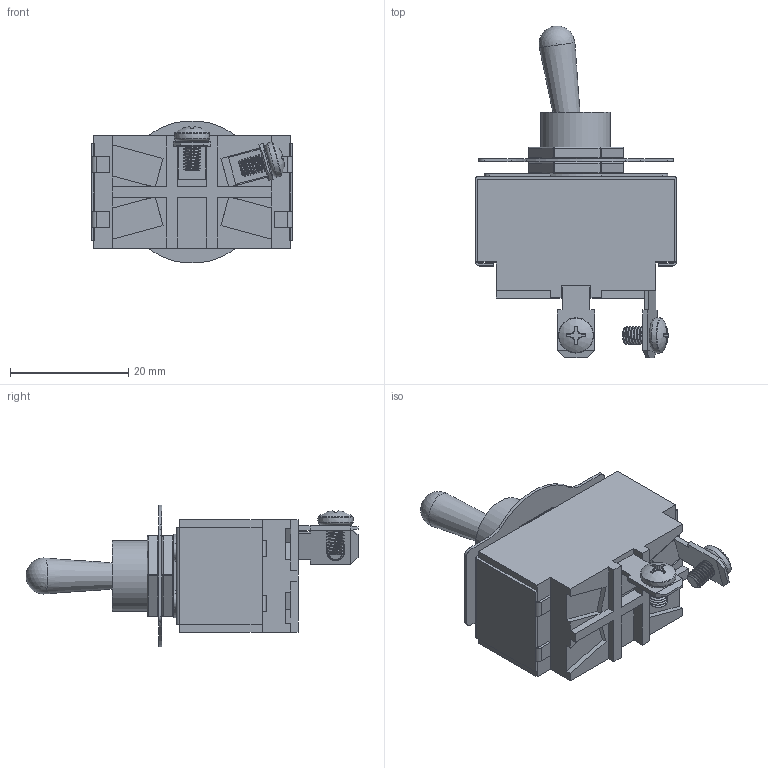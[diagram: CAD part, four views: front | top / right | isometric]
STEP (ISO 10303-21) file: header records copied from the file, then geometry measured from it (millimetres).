
FILE_DESCRIPTION(/* description */ (''),/* implementation_level */ '2;1');
FILE_NAME(/* name */ 'TB2-1A-DC-4.stp',/* time_stamp */ '2024-01-05T13:11:22-08:00',/* author */ ('RaniahC'),/* organization */ (''),/* preprocessor_version */ 'ST-DEVELOPER v19.2',/* originating_system */ 'Autodesk Inventor 2024',/* authorisation */ '');
FILE_SCHEMA (('AUTOMOTIVE_DESIGN { 1 0 10303 214 3 1 1 }'));
Products named in the file (7): TB2-1A-DC-4; 7343K772_Toggle Switch; Metal Band real; clips; onoff panel; Hex Panel nut; 92000A114_Passivated 18-8 Stainless Steel Pan Head Phillips Screws
Assembly tree (11 placements, depth 2):
  TB2-1A-DC-4
    7343K772_Toggle Switch
    Metal Band real
    clips  x4
    onoff panel
    Hex Panel nut  x2
    92000A114_Passivated 18-8 Stainless Steel Pan Head Phillips Screws  x2
Bounding box: 34.2 x 56.26 x 24.06 mm (x, y, z)
Volume: 13632.5 mm3; surface area: 9042.2 mm2
Topology: 14 solids, 14 shells, 417 faces, 1047 edges, 663 vertices
Faces by surface type: plane 200, cylinder 136, bspline 30, sphere 27, cone 20, torus 4
Full cylindrical faces by diameter (mm): 2.184 x2, 2.35 x14, 3 x16, 8.636 x1, 11.8 x2, 11.92 x1, 12.15 x1
Entity records: 10160 total; most frequent: CARTESIAN_POINT 3262, ORIENTED_EDGE 1402, DIRECTION 1368, EDGE_CURVE 701, AXIS2_PLACEMENT_3D 457, LINE 454, VECTOR 454, VERTEX_POINT 449
